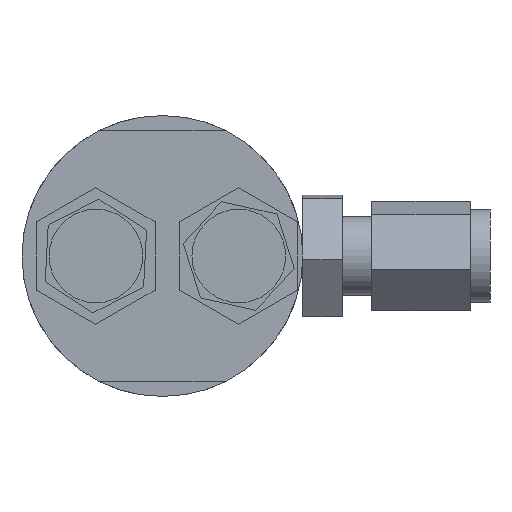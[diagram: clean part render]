
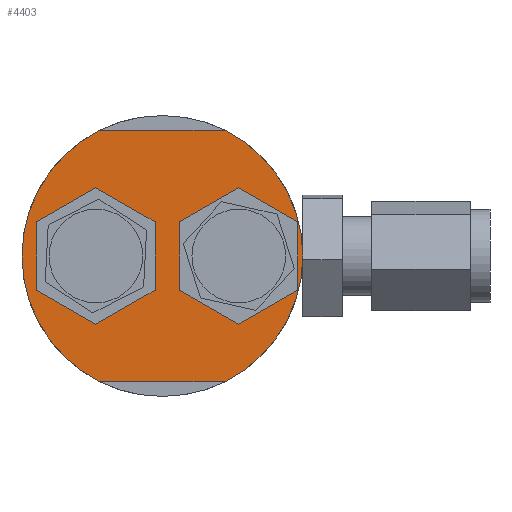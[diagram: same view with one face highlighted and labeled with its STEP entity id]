
A CAD part, front view. The second image highlights one B-rep face of the part: STEP entity #4403.
In plain terms, the highlighted planar face has unit normal (0, -1, 0).
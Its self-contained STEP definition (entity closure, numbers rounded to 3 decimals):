
#13 = CARTESIAN_POINT ( 'NONE',  ( 0., 0., 0. ) ) ;
#18 = CARTESIAN_POINT ( 'NONE',  ( -6.75, 0., -6.928 ) ) ;
#28 = DIRECTION ( 'NONE',  ( 0.866, 0., 0.5 ) ) ;
#190 = EDGE_CURVE ( 'NONE', #6559, #8804, #4238, .T. ) ;
#251 = VECTOR ( 'NONE', #4348, 1000. ) ;
#305 = DIRECTION ( 'NONE',  ( -1., 0., 0. ) ) ;
#348 = DIRECTION ( 'NONE',  ( 0., -1., 0. ) ) ;
#487 = CIRCLE ( 'NONE', #2282, 14.25 ) ;
#505 = LINE ( 'NONE', #5834, #251 ) ;
#546 = PLANE ( 'NONE',  #4208 ) ;
#608 = LINE ( 'NONE', #7800, #853 ) ;
#669 = VERTEX_POINT ( 'NONE', #1815 ) ;
#676 = CARTESIAN_POINT ( 'NONE',  ( 14.25, 0., 0. ) ) ;
#853 = VECTOR ( 'NONE', #2487, 1000. ) ;
#901 = ORIENTED_EDGE ( 'NONE', *, *, #6169, .F. ) ;
#1011 = CIRCLE ( 'NONE', #3316, 14.25 ) ;
#1027 = DIRECTION ( 'NONE',  ( 0., 0., -1. ) ) ;
#1107 = EDGE_CURVE ( 'NONE', #6903, #3006, #5402, .T. ) ;
#1152 = FACE_BOUND ( 'NONE', #3301, .T. ) ;
#1159 = EDGE_LOOP ( 'NONE', ( #2363, #5676, #7469, #1396, #9004, #4738 ) ) ;
#1172 = DIRECTION ( 'NONE',  ( 0., 0., 1. ) ) ;
#1237 = DIRECTION ( 'NONE',  ( 1., 0., 0. ) ) ;
#1259 = EDGE_CURVE ( 'NONE', #6522, #6559, #7158, .T. ) ;
#1396 = ORIENTED_EDGE ( 'NONE', *, *, #8318, .F. ) ;
#1429 = VECTOR ( 'NONE', #5170, 1000. ) ;
#1451 = EDGE_CURVE ( 'NONE', #8804, #6675, #5457, .T. ) ;
#1453 = CARTESIAN_POINT ( 'NONE',  ( -6.75, 0., 6.928 ) ) ;
#1625 = DIRECTION ( 'NONE',  ( -0.866, 0., -0.5 ) ) ;
#1647 = CARTESIAN_POINT ( 'NONE',  ( 7.75, 0., 6.928 ) ) ;
#1673 = CARTESIAN_POINT ( 'NONE',  ( 7.75, 0., 6.928 ) ) ;
#1690 = VERTEX_POINT ( 'NONE', #8101 ) ;
#1765 = ORIENTED_EDGE ( 'NONE', *, *, #8935, .F. ) ;
#1813 = CARTESIAN_POINT ( 'NONE',  ( -12.75, 0., 3.464 ) ) ;
#1815 = CARTESIAN_POINT ( 'NONE',  ( -6.364, 0., 12.75 ) ) ;
#2013 = CARTESIAN_POINT ( 'NONE',  ( 6.364, 0., 12.75 ) ) ;
#2023 = CARTESIAN_POINT ( 'NONE',  ( 7.75, 0., -6.928 ) ) ;
#2033 = EDGE_CURVE ( 'NONE', #8226, #3016, #5451, .T. ) ;
#2251 = DIRECTION ( 'NONE',  ( -0.866, 0., -0.5 ) ) ;
#2281 = CARTESIAN_POINT ( 'NONE',  ( -6.75, 0., 6.928 ) ) ;
#2282 = AXIS2_PLACEMENT_3D ( 'NONE', #7523, #2961, #8287 ) ;
#2351 = DIRECTION ( 'NONE',  ( 0., 0., 1. ) ) ;
#2363 = ORIENTED_EDGE ( 'NONE', *, *, #4577, .F. ) ;
#2449 = EDGE_CURVE ( 'NONE', #7793, #9351, #6173, .T. ) ;
#2487 = DIRECTION ( 'NONE',  ( 0.866, 0., -0.5 ) ) ;
#2555 = VECTOR ( 'NONE', #4301, 1000. ) ;
#2574 = VERTEX_POINT ( 'NONE', #2013 ) ;
#2585 = VECTOR ( 'NONE', #4028, 1000. ) ;
#2709 = FACE_OUTER_BOUND ( 'NONE', #1159, .T. ) ;
#2750 = CARTESIAN_POINT ( 'NONE',  ( -0.75, 0., -3.464 ) ) ;
#2961 = DIRECTION ( 'NONE',  ( 0., -1., 0. ) ) ;
#2997 = VERTEX_POINT ( 'NONE', #6756 ) ;
#3006 = VERTEX_POINT ( 'NONE', #6590 ) ;
#3016 = VERTEX_POINT ( 'NONE', #676 ) ;
#3139 = EDGE_CURVE ( 'NONE', #3006, #2997, #5202, .T. ) ;
#3287 = CARTESIAN_POINT ( 'NONE',  ( -20.634, 0., -12.75 ) ) ;
#3296 = ORIENTED_EDGE ( 'NONE', *, *, #6232, .F. ) ;
#3301 = EDGE_LOOP ( 'NONE', ( #6517, #8297, #6277, #8053, #1765, #7350 ) ) ;
#3316 = AXIS2_PLACEMENT_3D ( 'NONE', #4044, #4012, #3946 ) ;
#3334 = VECTOR ( 'NONE', #1625, 1000. ) ;
#3390 = VECTOR ( 'NONE', #28, 1000. ) ;
#3402 = DIRECTION ( 'NONE',  ( 0., -1., 0. ) ) ;
#3465 = LINE ( 'NONE', #7614, #7275 ) ;
#3550 = AXIS2_PLACEMENT_3D ( 'NONE', #5039, #3402, #4931 ) ;
#3737 = EDGE_CURVE ( 'NONE', #1690, #5477, #3996, .T. ) ;
#3946 = DIRECTION ( 'NONE',  ( 1., 0., 0. ) ) ;
#3996 = CIRCLE ( 'NONE', #9721, 14.25 ) ;
#4012 = DIRECTION ( 'NONE',  ( 0., -1., 0. ) ) ;
#4028 = DIRECTION ( 'NONE',  ( -0.866, 0., 0.5 ) ) ;
#4044 = CARTESIAN_POINT ( 'NONE',  ( 0., 0., 0. ) ) ;
#4122 = ORIENTED_EDGE ( 'NONE', *, *, #1451, .F. ) ;
#4144 = VECTOR ( 'NONE', #2251, 1000. ) ;
#4208 = AXIS2_PLACEMENT_3D ( 'NONE', #13, #348, #1237 ) ;
#4238 = LINE ( 'NONE', #6151, #5781 ) ;
#4301 = DIRECTION ( 'NONE',  ( 0.866, 0., 0.5 ) ) ;
#4348 = DIRECTION ( 'NONE',  ( -0.866, 0., 0.5 ) ) ;
#4403 = ADVANCED_FACE ( 'NONE', ( #2709, #1152, #8523 ), #546, .T. ) ;
#4560 = CARTESIAN_POINT ( 'NONE',  ( 1.75, 0., -3.464 ) ) ;
#4576 = DIRECTION ( 'NONE',  ( 0., 0., -1. ) ) ;
#4577 = EDGE_CURVE ( 'NONE', #8226, #5477, #7110, .T. ) ;
#4612 = LINE ( 'NONE', #4805, #2585 ) ;
#4647 = EDGE_CURVE ( 'NONE', #8245, #6522, #4612, .T. ) ;
#4738 = ORIENTED_EDGE ( 'NONE', *, *, #3737, .T. ) ;
#4805 = CARTESIAN_POINT ( 'NONE',  ( 13.75, 0., 3.464 ) ) ;
#4918 = VECTOR ( 'NONE', #1027, 1000. ) ;
#4931 = DIRECTION ( 'NONE',  ( 1., 0., 0. ) ) ;
#4957 = ORIENTED_EDGE ( 'NONE', *, *, #4647, .F. ) ;
#4967 = VECTOR ( 'NONE', #2351, 1000. ) ;
#5039 = CARTESIAN_POINT ( 'NONE',  ( 0., 0., 0. ) ) ;
#5049 = CARTESIAN_POINT ( 'NONE',  ( 1.75, 0., -3.464 ) ) ;
#5075 = VECTOR ( 'NONE', #305, 1000. ) ;
#5097 = EDGE_CURVE ( 'NONE', #3016, #2574, #1011, .T. ) ;
#5170 = DIRECTION ( 'NONE',  ( 0.866, 0., -0.5 ) ) ;
#5202 = LINE ( 'NONE', #2750, #4967 ) ;
#5214 = EDGE_LOOP ( 'NONE', ( #3296, #4122, #9470, #9214, #4957, #901 ) ) ;
#5402 = LINE ( 'NONE', #18, #3390 ) ;
#5451 = CIRCLE ( 'NONE', #3550, 14.25 ) ;
#5457 = LINE ( 'NONE', #5049, #1429 ) ;
#5477 = VERTEX_POINT ( 'NONE', #9310 ) ;
#5676 = ORIENTED_EDGE ( 'NONE', *, *, #2033, .T. ) ;
#5689 = EDGE_CURVE ( 'NONE', #2997, #7793, #505, .T. ) ;
#5781 = VECTOR ( 'NONE', #4576, 1000. ) ;
#5834 = CARTESIAN_POINT ( 'NONE',  ( -0.75, 0., 3.464 ) ) ;
#6151 = CARTESIAN_POINT ( 'NONE',  ( 1.75, 0., 3.464 ) ) ;
#6169 = EDGE_CURVE ( 'NONE', #7910, #8245, #7077, .T. ) ;
#6173 = LINE ( 'NONE', #2281, #4144 ) ;
#6232 = EDGE_CURVE ( 'NONE', #6675, #7910, #6601, .T. ) ;
#6277 = ORIENTED_EDGE ( 'NONE', *, *, #3139, .F. ) ;
#6327 = CARTESIAN_POINT ( 'NONE',  ( -6.75, 0., -6.928 ) ) ;
#6497 = CARTESIAN_POINT ( 'NONE',  ( 13.75, 0., -3.464 ) ) ;
#6517 = ORIENTED_EDGE ( 'NONE', *, *, #2449, .F. ) ;
#6522 = VERTEX_POINT ( 'NONE', #1647 ) ;
#6523 = CARTESIAN_POINT ( 'NONE',  ( -12.75, 0., -3.464 ) ) ;
#6559 = VERTEX_POINT ( 'NONE', #9395 ) ;
#6590 = CARTESIAN_POINT ( 'NONE',  ( -0.75, 0., -3.464 ) ) ;
#6601 = LINE ( 'NONE', #2023, #2555 ) ;
#6675 = VERTEX_POINT ( 'NONE', #6693 ) ;
#6693 = CARTESIAN_POINT ( 'NONE',  ( 7.75, 0., -6.928 ) ) ;
#6697 = EDGE_CURVE ( 'NONE', #669, #1690, #487, .T. ) ;
#6756 = CARTESIAN_POINT ( 'NONE',  ( -0.75, 0., 3.464 ) ) ;
#6903 = VERTEX_POINT ( 'NONE', #6327 ) ;
#6936 = EDGE_CURVE ( 'NONE', #9351, #7037, #6949, .T. ) ;
#6949 = LINE ( 'NONE', #1813, #4918 ) ;
#7037 = VERTEX_POINT ( 'NONE', #6523 ) ;
#7077 = LINE ( 'NONE', #6497, #9073 ) ;
#7110 = LINE ( 'NONE', #3287, #5075 ) ;
#7158 = LINE ( 'NONE', #1673, #3334 ) ;
#7275 = VECTOR ( 'NONE', #8382, 1000. ) ;
#7350 = ORIENTED_EDGE ( 'NONE', *, *, #6936, .F. ) ;
#7469 = ORIENTED_EDGE ( 'NONE', *, *, #5097, .T. ) ;
#7489 = CARTESIAN_POINT ( 'NONE',  ( 6.364, 0., -12.75 ) ) ;
#7523 = CARTESIAN_POINT ( 'NONE',  ( 0., 0., 0. ) ) ;
#7614 = CARTESIAN_POINT ( 'NONE',  ( -20.634, 0., 12.75 ) ) ;
#7711 = CARTESIAN_POINT ( 'NONE',  ( -12.75, 0., 3.464 ) ) ;
#7793 = VERTEX_POINT ( 'NONE', #1453 ) ;
#7800 = CARTESIAN_POINT ( 'NONE',  ( -12.75, 0., -3.464 ) ) ;
#7910 = VERTEX_POINT ( 'NONE', #8588 ) ;
#8053 = ORIENTED_EDGE ( 'NONE', *, *, #1107, .F. ) ;
#8101 = CARTESIAN_POINT ( 'NONE',  ( -14.25, 0., 0. ) ) ;
#8226 = VERTEX_POINT ( 'NONE', #7489 ) ;
#8245 = VERTEX_POINT ( 'NONE', #9765 ) ;
#8287 = DIRECTION ( 'NONE',  ( 1., 0., 0. ) ) ;
#8297 = ORIENTED_EDGE ( 'NONE', *, *, #5689, .F. ) ;
#8318 = EDGE_CURVE ( 'NONE', #669, #2574, #3465, .T. ) ;
#8382 = DIRECTION ( 'NONE',  ( 1., 0., 0. ) ) ;
#8523 = FACE_BOUND ( 'NONE', #5214, .T. ) ;
#8588 = CARTESIAN_POINT ( 'NONE',  ( 13.75, 0., -3.464 ) ) ;
#8804 = VERTEX_POINT ( 'NONE', #4560 ) ;
#8848 = DIRECTION ( 'NONE',  ( 1., 0., 0. ) ) ;
#8884 = DIRECTION ( 'NONE',  ( 0., -1., 0. ) ) ;
#8916 = CARTESIAN_POINT ( 'NONE',  ( 0., 0., 0. ) ) ;
#8935 = EDGE_CURVE ( 'NONE', #7037, #6903, #608, .T. ) ;
#9004 = ORIENTED_EDGE ( 'NONE', *, *, #6697, .T. ) ;
#9073 = VECTOR ( 'NONE', #1172, 1000. ) ;
#9214 = ORIENTED_EDGE ( 'NONE', *, *, #1259, .F. ) ;
#9310 = CARTESIAN_POINT ( 'NONE',  ( -6.364, 0., -12.75 ) ) ;
#9351 = VERTEX_POINT ( 'NONE', #7711 ) ;
#9395 = CARTESIAN_POINT ( 'NONE',  ( 1.75, 0., 3.464 ) ) ;
#9470 = ORIENTED_EDGE ( 'NONE', *, *, #190, .F. ) ;
#9721 = AXIS2_PLACEMENT_3D ( 'NONE', #8916, #8884, #8848 ) ;
#9765 = CARTESIAN_POINT ( 'NONE',  ( 13.75, 0., 3.464 ) ) ;
